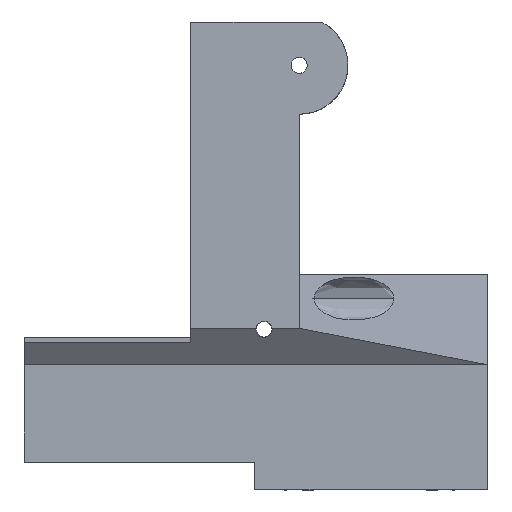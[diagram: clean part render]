
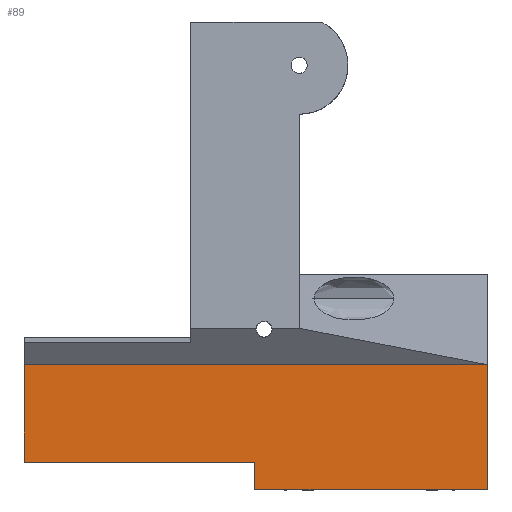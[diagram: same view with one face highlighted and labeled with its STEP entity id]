
A CAD part, left-side view. The second image highlights one B-rep face of the part: STEP entity #89.
In plain terms, the highlighted planar face has unit normal (-1, 0, 0).
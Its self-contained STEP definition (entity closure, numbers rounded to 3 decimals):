
#89=ADVANCED_FACE('',(#216),#1632,.T.);
#216=FACE_OUTER_BOUND('',#336,.T.);
#336=EDGE_LOOP('',(#749,#750,#751,#752,#753,#754));
#749=ORIENTED_EDGE('',*,*,#879,.T.);
#750=ORIENTED_EDGE('',*,*,#877,.F.);
#751=ORIENTED_EDGE('',*,*,#1076,.F.);
#752=ORIENTED_EDGE('',*,*,#1058,.T.);
#753=ORIENTED_EDGE('',*,*,#943,.F.);
#754=ORIENTED_EDGE('',*,*,#1075,.F.);
#877=EDGE_CURVE('',#1389,#1392,#1275,.T.);
#879=EDGE_CURVE('',#1391,#1392,#1277,.T.);
#943=EDGE_CURVE('',#1414,#1509,#1319,.T.);
#1058=EDGE_CURVE('',#1400,#1509,#1376,.T.);
#1075=EDGE_CURVE('',#1391,#1414,#1384,.T.);
#1076=EDGE_CURVE('',#1400,#1389,#1385,.T.);
#1275=B_SPLINE_CURVE_WITH_KNOTS('',1,(#2530,#2531),.UNSPECIFIED.,.F.,.F.,
(2,2),(-216.8,-173.885),.UNSPECIFIED.);
#1277=B_SPLINE_CURVE_WITH_KNOTS('',1,(#2534,#2535),.UNSPECIFIED.,.F.,.F.,
(2,2),(0.,5.143),.UNSPECIFIED.);
#1319=B_SPLINE_CURVE_WITH_KNOTS('',1,(#2728,#2729),.UNSPECIFIED.,.F.,.F.,
(2,2),(0.,17.955),.UNSPECIFIED.);
#1376=B_SPLINE_CURVE_WITH_KNOTS('',1,(#3135,#3136,#3137,#3138),
 .UNSPECIFIED.,.F.,.F.,(2,1,1,2),(-34.736,0.,20.,50.664),
 .UNSPECIFIED.);
#1384=B_SPLINE_CURVE_WITH_KNOTS('',1,(#3199,#3200),.UNSPECIFIED.,.F.,.F.,
(2,2),(-173.885,-131.4),.UNSPECIFIED.);
#1385=B_SPLINE_CURVE_WITH_KNOTS('',1,(#3201,#3202,#3203),.UNSPECIFIED.,
 .F.,.F.,(2,1,2),(14.183,32.138,37.281),
 .UNSPECIFIED.);
#1389=VERTEX_POINT('',#2363);
#1391=VERTEX_POINT('',#2365);
#1392=VERTEX_POINT('',#2366);
#1400=VERTEX_POINT('',#2374);
#1414=VERTEX_POINT('',#2388);
#1509=VERTEX_POINT('',#2483);
#1632=PLANE('',#1700);
#1700=AXIS2_PLACEMENT_3D('',#1928,#1751,$);
#1751=DIRECTION('',(-1.,0.,0.));
#1928=CARTESIAN_POINT('',(-164.105,105.139,429.772));
#2363=CARTESIAN_POINT('',(-164.105,105.139,389.966));
#2365=CARTESIAN_POINT('',(-164.105,148.054,395.109));
#2366=CARTESIAN_POINT('',(-164.105,148.054,389.966));
#2374=CARTESIAN_POINT('',(-164.105,105.139,413.064));
#2388=CARTESIAN_POINT('',(-164.105,190.539,395.109));
#2483=CARTESIAN_POINT('',(-164.105,190.539,413.064));
#2530=CARTESIAN_POINT('',(-164.105,105.139,389.966));
#2531=CARTESIAN_POINT('',(-164.105,148.054,389.966));
#2534=CARTESIAN_POINT('',(-164.105,148.054,395.109));
#2535=CARTESIAN_POINT('',(-164.105,148.054,389.966));
#2728=CARTESIAN_POINT('',(-164.105,190.539,395.109));
#2729=CARTESIAN_POINT('',(-164.105,190.539,413.064));
#3135=CARTESIAN_POINT('',(-164.105,105.139,413.064));
#3136=CARTESIAN_POINT('',(-164.105,139.875,413.064));
#3137=CARTESIAN_POINT('',(-164.105,159.875,413.064));
#3138=CARTESIAN_POINT('',(-164.105,190.539,413.064));
#3199=CARTESIAN_POINT('',(-164.105,148.054,395.109));
#3200=CARTESIAN_POINT('',(-164.105,190.539,395.109));
#3201=CARTESIAN_POINT('',(-164.105,105.139,413.064));
#3202=CARTESIAN_POINT('',(-164.105,105.139,395.109));
#3203=CARTESIAN_POINT('',(-164.105,105.139,389.966));
